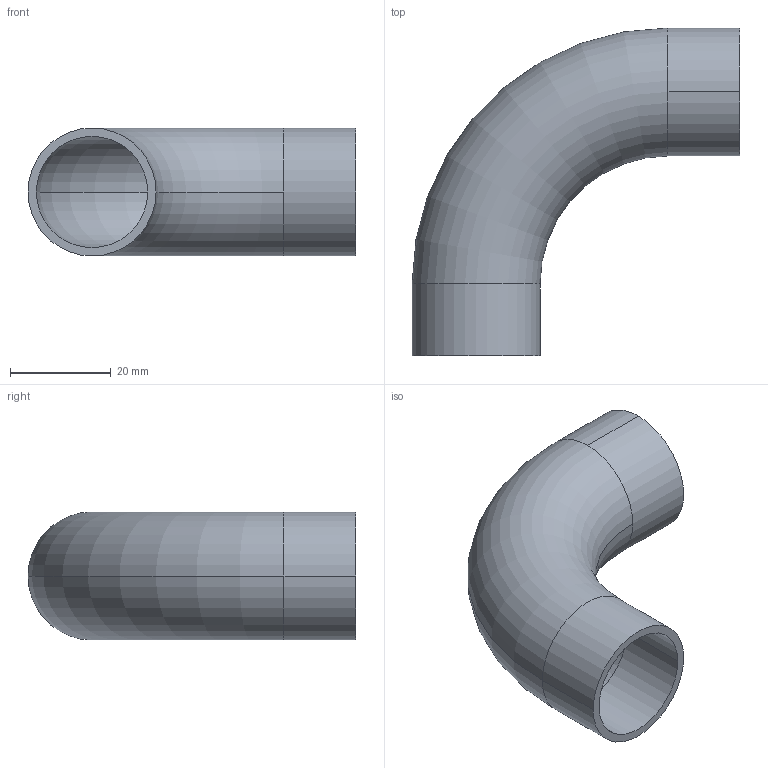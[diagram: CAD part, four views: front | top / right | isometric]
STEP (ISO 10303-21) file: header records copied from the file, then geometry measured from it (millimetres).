
FILE_DESCRIPTION (( 'STEP AP203' ), '1' );
FILE_NAME ('E2S1.0.STEP', '2018-04-30T18:04:04', ( 'vneprd' ), ( 'Microsoft' ), 'SwSTEP 2.0', 'SolidWorks 2014', '' );
FILE_SCHEMA (( 'CONFIG_CONTROL_DESIGN' ));
Length unit declared in the file: inch
Products named in the file (1): E2S1.0
Bounding box: 65.07 x 65.07 x 25.4 mm (x, y, z)
Volume: 10888.8 mm3; surface area: 13436.9 mm2
Topology: 1 solids, 1 shells, 14 faces, 32 edges, 20 vertices
Faces by surface type: cylinder 8, torus 4, plane 2
Entity records: 491 total; most frequent: DIRECTION 86, CARTESIAN_POINT 67, ORIENTED_EDGE 64, AXIS2_PLACEMENT_3D 39, EDGE_CURVE 32, CIRCLE 24, VERTEX_POINT 20, EDGE_LOOP 16
